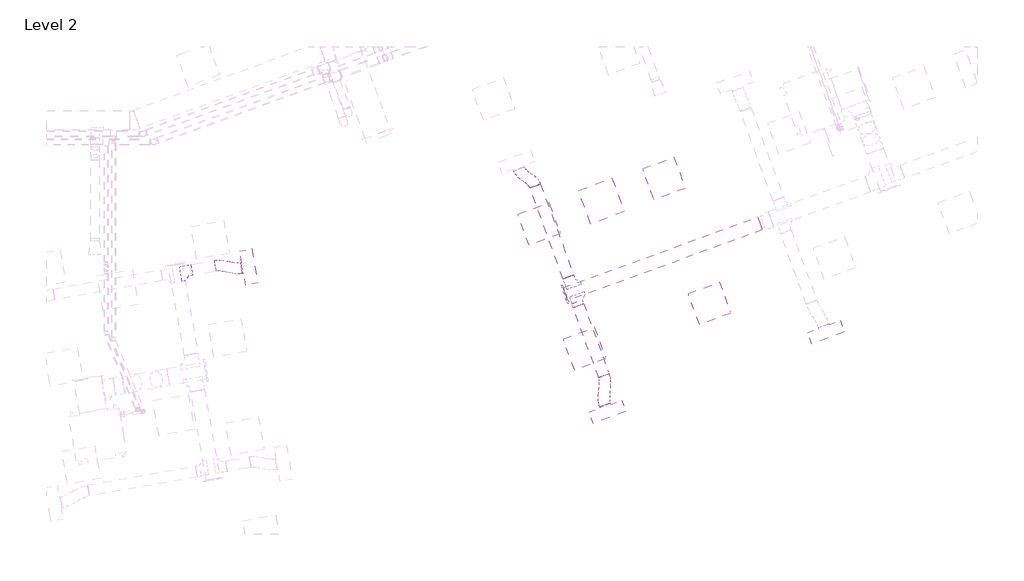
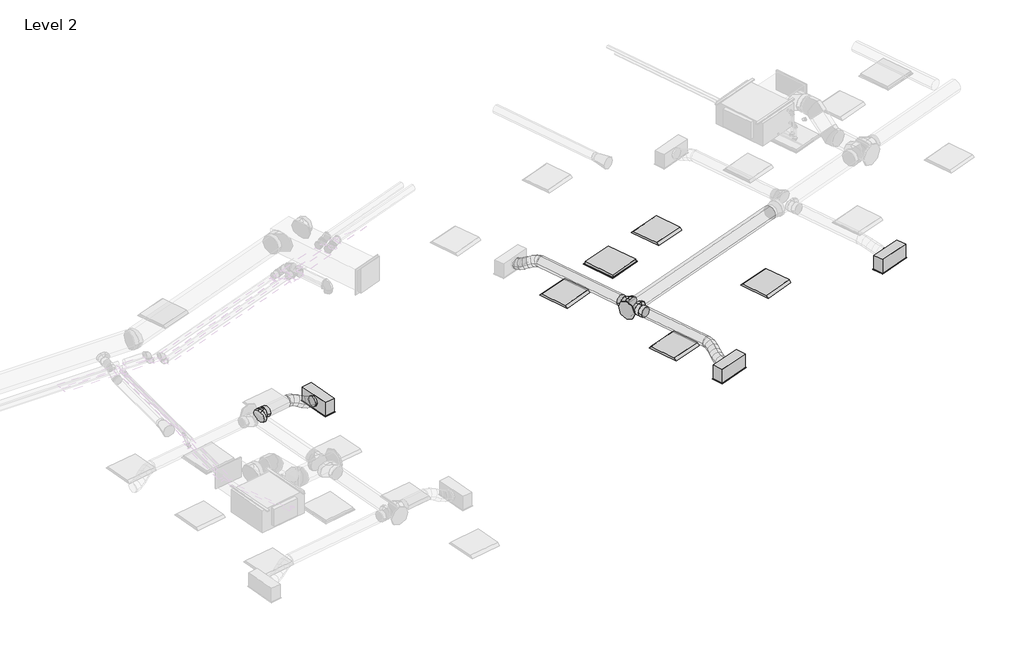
# One storey, part 16 of 26: 6 duct segments, 4 air terminals, 4 duct fittings, 4 light fixtures.
"""IFC4 building model written with IfcOpenShell, lengths in millimetres."""

from ifc_helpers import new_model, si_unit, point, frame, frame_2d, origin, place, context, project, spatial, circle_curve, ellipse_curve, trimmed, segment, composite_curve, outline, extrude, transform, mapped, element, save
from ifc_brep_helpers import plane_surface, cylinder_surface, advanced_brep
from components import return_grille_rectangular_hosted_standard_7b12617c, supply_diffuser_with_plenum_linear_slot_hosted_8e4f2f20, dw144_round_blank_end_standard_9aa061e7, dw144_round_shoe_branch_slip_joint1_standard_2_15a2edd8, dw144_round_shoe_branch_slip_joint1_standard_2_559552f4, light_fixture_1c7c1157, light_fixture_b730b5ca

model = new_model("IFC4")

# Units and contexts
model_context = context("Model", 3, world=origin())
ifc_project = project(units=[si_unit("LENGTHUNIT", "METRE", prefix="MILLI")], contexts=[model_context])

# Site, building, storey
site = spatial("IfcSite", under=ifc_project)
building = spatial("IfcBuilding", under=site)
storey = spatial("IfcBuildingStorey", under=building, Name="Level 2", Elevation=7800.0)

# Air terminals
placement = place(None, origin())
return_grille_rectangular_hosted_standard_shape = return_grille_rectangular_hosted_standard_7b12617c(model_context)
element("IfcAirTerminal", 1, ObjectType="Return Grille - Rectangular - Hosted : Standard", at=placement, inside=storey, context=model_context, shape_type="MappedRepresentation", body=[
    mapped(return_grille_rectangular_hosted_standard_shape, transform((41652.2340724, 7545.0866539, 10600.0), x_axis=(0.939692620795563, 0.34202014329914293, 0.0), y_axis=(0.34202014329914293, -0.939692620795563, 0.0), z_axis=(0.0, 0.0, -1.0))),
])
supply_diffuser_with_plenum_linear_slot_hosted_shape = supply_diffuser_with_plenum_linear_slot_hosted_8e4f2f20(model_context)
element("IfcAirTerminal", 2, ObjectType="Supply Diffuser with Plenum - Linear Slot - Hosted : 24\" x 8\"-200 In Inlet  4-Slot", at=placement, inside=storey, context=model_context, shape_type="MappedRepresentation", body=[
    mapped(supply_diffuser_with_plenum_linear_slot_hosted_shape, transform((35287.7668821, 6356.7751304, 10600.0), x_axis=(0.1736481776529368, -0.9848077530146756, 0.0), y_axis=(-0.9848077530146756, -0.1736481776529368, 0.0), z_axis=(0.0, 0.0, -1.0))),
])
element("IfcAirTerminal", 3, ObjectType="Supply Diffuser with Plenum - Linear Slot - Hosted : 24\" x 8\"-200 In Inlet  4-Slot", at=placement, inside=storey, context=model_context, shape_type="MappedRepresentation", body=[
    mapped(supply_diffuser_with_plenum_linear_slot_hosted_shape, transform((45710.0093544, 5175.8970284, 10600.0), x_axis=(-0.9396926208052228, -0.34202014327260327, 0.0), y_axis=(-0.34202014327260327, 0.9396926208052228, 0.0), z_axis=(0.0, 0.0, -1.0))),
])
element("IfcAirTerminal", 4, ObjectType="Supply Diffuser with Plenum - Linear Slot - Hosted : 24\" x 8\"-200 In Inlet  4-Slot", at=placement, inside=storey, context=model_context, shape_type="MappedRepresentation", body=[
    mapped(supply_diffuser_with_plenum_linear_slot_hosted_shape, transform((41763.8772786, 3738.1302766, 10600.0), x_axis=(-0.9396926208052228, -0.34202014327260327, 0.0), y_axis=(-0.34202014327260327, 0.9396926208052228, 0.0), z_axis=(0.0, 0.0, -1.0))),
])

# Duct fittings
dw144_round_blank_end_standard_shape = dw144_round_blank_end_standard_9aa061e7(model_context)
element("IfcDuctFitting", 5, ObjectType="DW144 Round Blank End : Standard", at=placement, inside=storey, context=model_context, shape_type="MappedRepresentation", body=[
    mapped(dw144_round_blank_end_standard_shape, transform((41009.1711145, 5863.2598768, 10872.2088531), x_axis=(-0.9396926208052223, -0.3420201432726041, 0.0), y_axis=(0.3420201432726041, -0.9396926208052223, 0.0), z_axis=(0.0, 0.0, 1.0))),
])
dw144_round_shoe_branch_slip_joint1_standard_2_shape = dw144_round_shoe_branch_slip_joint1_standard_2_15a2edd8(model_context)
element("IfcDuctFitting", 6, ObjectType="DW144 Round Shoe Branch - Slip Joint1 : Standard 2", at=placement, inside=storey, context=model_context, shape_type="MappedRepresentation", body=[
    mapped(dw144_round_shoe_branch_slip_joint1_standard_2_shape, transform((41187.9395023, 5795.3040272, 10872.2088531), x_axis=(0.3420201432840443, -0.9396926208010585, 0.0), y_axis=(-0.9396926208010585, -0.3420201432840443, 0.0), z_axis=(0.0, 0.0, -1.0))),
])
dw144_round_shoe_branch_slip_joint1_standard_2_2_shape = dw144_round_shoe_branch_slip_joint1_standard_2_559552f4(model_context)
element("IfcDuctFitting", 7, ObjectType="DW144 Round Shoe Branch - Slip Joint1 : Standard 2", at=placement, inside=storey, context=model_context, shape_type="MappedRepresentation", body=[
    mapped(dw144_round_shoe_branch_slip_joint1_standard_2_2_shape, transform((34112.5431238, 6274.4580965, 10900.0), x_axis=(0.984807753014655, 0.17364817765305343, 0.0), y_axis=(0.17364817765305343, -0.984807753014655, 0.0), z_axis=(0.0, 0.0, -1.0))),
])
element("IfcDuctFitting", 8, ObjectType="DW144 Round Shoe Branch - Slip Joint1 : Standard 2", at=placement, inside=storey, context=model_context, shape_type="MappedRepresentation", body=[
    mapped(dw144_round_shoe_branch_slip_joint1_standard_2_2_shape, transform((41110.0772481, 6033.0089274, 10872.2088531), x_axis=(-0.34202014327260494, 0.9396926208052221, 0.0), y_axis=(0.9396926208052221, 0.34202014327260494, 0.0), z_axis=(0.0, 0.0, -1.0))),
])

# Duct segments
element("IfcDuctSegment", 9, ObjectType="DW144 Segmented Bend / Shoe Branch", at=placement, inside=storey, context=model_context, shape_type="SweptSolid", body=[
    extrude(outline(composite_curve([segment(trimmed(circle_curve(frame_2d((0.0, -125.0)), 125.0), [point((-125.0, -125.0))], [point((0.0, 0.0))], False, "CARTESIAN"), True, "CONTINUOUS"), segment(trimmed(circle_curve(frame_2d((0.0, -125.0)), 125.0), [point((0.0, 0.0))], [point((125.0, -125.0))], False, "CARTESIAN"), True, "CONTINUOUS"), segment(trimmed(circle_curve(frame_2d((0.0, -125.0)), 125.0), [point((125.0, -125.0))], [point((0.0, -250.0))], False, "CARTESIAN"), True, "CONTINUOUS"), segment(trimmed(circle_curve(frame_2d((0.0, -125.0)), 125.0), [point((0.0, -250.0))], [point((-125.0, -125.0))], False, "CARTESIAN"), True, "CONTINUOUS")], self_intersect=False)), frame((41009.1711145, 5863.2598768, 10747.2088531), z_axis=(0.9396926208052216, 0.34202014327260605, 0.0), x_axis=(0.34202014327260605, -0.9396926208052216, 0.0)), (0.0, 0.0, 1.0), 3731.776784),
])
element("IfcDuctSegment", 10, ObjectType="DW144 Segmented Bend / Shoe Branch", at=placement, inside=storey, context=model_context, shape_type="SweptSolid", body=[
    extrude(outline(composite_curve([segment(trimmed(circle_curve(frame_2d((0.0, -100.0)), 100.0), [point((-100.0, -100.0))], [point((0.0, 0.0))], False, "CARTESIAN"), True, "CONTINUOUS"), segment(trimmed(circle_curve(frame_2d((0.0, -100.0)), 100.0), [point((0.0, 0.0))], [point((99.9999999, -100.0))], False, "CARTESIAN"), True, "CONTINUOUS"), segment(trimmed(circle_curve(frame_2d((0.0, -100.0)), 100.0), [point((99.9999999, -100.0))], [point((0.0, -200.0))], False, "CARTESIAN"), True, "CONTINUOUS"), segment(trimmed(circle_curve(frame_2d((0.0, -100.0)), 100.0), [point((0.0, -200.0))], [point((-100.0, -100.0))], False, "CARTESIAN"), True, "CONTINUOUS")], self_intersect=False)), frame((41698.4387819, 4392.7187837, 10772.2088531), z_axis=(-0.3420201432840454, 0.9396926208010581, 0.0), x_axis=(0.9396926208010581, 0.3420201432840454, 0.0)), (0.0, 0.0, 1.0), 1342.60004),
])
element("IfcDuctSegment", 11, ObjectType="DW144 Segmented Bend / Shoe Branch", at=placement, inside=storey, context=model_context, shape_type="SweptSolid", body=[
    extrude(outline(composite_curve([segment(trimmed(circle_curve(frame_2d((0.0, -100.0)), 100.0), [point((-100.0, -100.0))], [point((0.0, 0.0))], False, "CARTESIAN"), True, "CONTINUOUS"), segment(trimmed(circle_curve(frame_2d((0.0, -100.0)), 100.0), [point((0.0, 0.0))], [point((100.0, -100.0))], False, "CARTESIAN"), True, "CONTINUOUS"), segment(trimmed(circle_curve(frame_2d((0.0, -100.0)), 100.0), [point((100.0, -100.0))], [point((0.0, -200.0))], False, "CARTESIAN"), True, "CONTINUOUS"), segment(trimmed(circle_curve(frame_2d((0.0, -100.0)), 100.0), [point((0.0, -200.0))], [point((-100.0, -100.0))], False, "CARTESIAN"), True, "CONTINUOUS")], self_intersect=False)), frame((41058.7742266, 6173.9628205, 10772.2088531), z_axis=(-0.3420201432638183, 0.9396926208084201, 0.0), x_axis=(0.9396926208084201, 0.3420201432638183, 0.0)), (0.0, 0.0, 1.0), 1749.6371728),
])
element("IfcDuctSegment", 12, ObjectType="Flex - Round", at=placement, inside=storey, context=model_context, shape_type="AdvancedBrep", body=[
    advanced_brep(
    [(34671.2908416, 6474.5230558, 10900.0), (34688.6556593, 6376.0422805, 10800.0), (34706.0204771, 6277.5615052, 10900.0), (34688.6556593, 6376.0422805, 11000.0), (34694.4154706, 6478.6005518, 10900.0), (34694.7677253, 6377.1200026, 10800.0), (34713.5633612, 6278.8915192, 10900.0), (34713.2111064, 6380.3720683, 11000.0), (35143.460345, 6432.8726556, 10754.4), (35160.8251628, 6334.3918803, 10854.4), (35178.1899805, 6235.911105, 10754.4), (35160.8251628, 6334.3918803, 10654.4), (34790.5184981, 6480.0670588, 10881.9565242), (34757.1296246, 6378.0716288, 10788.2914675), (34778.7630113, 6279.8864487, 10887.7586758), (34812.1518848, 6381.8818786, 10981.4237325), (34893.9490833, 6464.0957037, 10842.0801418), (34839.220936, 6365.3954028, 10756.6421781), (34862.6490328, 6266.9330904, 10855.4174582), (34917.3771801, 6365.6333913, 10940.8554219), (34986.8317893, 6443.5010704, 10798.9825418), (34932.103642, 6344.8007694, 10713.5445781), (34955.5317388, 6246.338457, 10812.3198582), (35010.2598861, 6345.038758, 10897.7578219), (35070.7178107, 6430.547712, 10766.6413242), (35037.3289373, 6328.5522821, 10672.9762675), (35058.962324, 6230.367102, 10772.4434758), (35092.3511975, 6332.3625319, 10866.1085325), (35135.9174609, 6431.5426416, 10754.4), (35136.2697156, 6330.0620924, 10654.4), (35155.0653515, 6231.8336089, 10754.4), (35154.7130967, 6333.3141581, 10854.4)],
    [
        (0, 1, circle_curve(frame((34688.6556593, 6376.0422805, 10900.0), z_axis=(-0.9848077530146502, -0.1736481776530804, 0.0), x_axis=(-0.1736481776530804, 0.9848077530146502, 0.0)), 100.0)),
        (1, 2, circle_curve(frame((34688.6556593, 6376.0422805, 10900.0), z_axis=(-0.9848077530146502, -0.1736481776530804, 0.0), x_axis=(-0.1736481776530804, 0.9848077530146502, 0.0)), 100.0)),
        (2, 3, circle_curve(frame((34688.6556593, 6376.0422805, 10900.0), z_axis=(-0.9848077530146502, -0.1736481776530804, 0.0), x_axis=(-0.1736481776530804, 0.9848077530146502, 0.0)), 100.0)),
        (3, 0, circle_curve(frame((34688.6556593, 6376.0422805, 10900.0), z_axis=(-0.9848077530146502, -0.1736481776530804, 0.0), x_axis=(-0.1736481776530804, 0.9848077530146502, 0.0)), 100.0)),
        (0, 4),
        (4, 5, ellipse_curve(frame((34703.9894159, 6378.7460355, 10900.0), z_axis=(-0.9911261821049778, -0.09502812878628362, 0.09294377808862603), x_axis=(-0.008592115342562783, -0.6519599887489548, -0.7582046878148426)), 100.7485405, 100.0)),
        (5, 1),
        (5, 6, ellipse_curve(frame((34703.9894159, 6378.7460355, 10900.0), z_axis=(-0.9911261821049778, -0.09502812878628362, 0.09294377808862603), x_axis=(-0.008592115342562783, -0.6519599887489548, -0.7582046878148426)), 100.7485405, 100.0)),
        (6, 2),
        (6, 7, ellipse_curve(frame((34703.9894159, 6378.7460355, 10900.0), z_axis=(-0.9911261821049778, -0.09502812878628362, 0.09294377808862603), x_axis=(-0.008592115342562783, -0.6519599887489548, -0.7582046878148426)), 100.7485405, 100.0)),
        (7, 3),
        (7, 4, ellipse_curve(frame((34703.9894159, 6378.7460355, 10900.0), z_axis=(-0.9911261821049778, -0.09502812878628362, 0.09294377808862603), x_axis=(-0.008592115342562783, -0.6519599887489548, -0.7582046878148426)), 100.7485405, 100.0)),
        (8, 9, circle_curve(frame((35160.8251628, 6334.3918803, 10754.4), z_axis=(0.984807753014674, 0.17364817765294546, 0.0), x_axis=(-0.17364817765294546, 0.984807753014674, 0.0)), 100.0)),
        (9, 10, circle_curve(frame((35160.8251628, 6334.3918803, 10754.4), z_axis=(0.984807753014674, 0.17364817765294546, 0.0), x_axis=(-0.17364817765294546, 0.984807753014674, 0.0)), 100.0)),
        (10, 11, circle_curve(frame((35160.8251628, 6334.3918803, 10754.4), z_axis=(0.984807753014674, 0.17364817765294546, 0.0), x_axis=(-0.17364817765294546, 0.984807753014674, 0.0)), 100.0)),
        (11, 8, circle_curve(frame((35160.8251628, 6334.3918803, 10754.4), z_axis=(0.984807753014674, 0.17364817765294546, 0.0), x_axis=(-0.17364817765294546, 0.984807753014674, 0.0)), 100.0)),
        (4, 12),
        (12, 13, ellipse_curve(frame((34784.6407547, 6379.9767537, 10884.8576), z_axis=(-0.9600770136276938, 0.06427107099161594, 0.272252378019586), x_axis=(-0.24628654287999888, -0.6557067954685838, -0.7137167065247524)), 100.7300501, 100.0)),
        (13, 5),
        (13, 14, ellipse_curve(frame((34784.6407547, 6379.9767537, 10884.8576), z_axis=(-0.9600770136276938, 0.06427107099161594, 0.272252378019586), x_axis=(-0.24628654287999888, -0.6557067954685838, -0.7137167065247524)), 100.7300501, 100.0)),
        (14, 6),
        (14, 15, ellipse_curve(frame((34784.6407547, 6379.9767537, 10884.8576), z_axis=(-0.9600770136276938, 0.06427107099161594, 0.272252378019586), x_axis=(-0.24628654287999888, -0.6557067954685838, -0.7137167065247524)), 100.7300501, 100.0)),
        (15, 7),
        (15, 12, ellipse_curve(frame((34784.6407547, 6379.9767537, 10884.8576), z_axis=(-0.9600770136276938, 0.06427107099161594, 0.272252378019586), x_axis=(-0.24628654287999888, -0.6557067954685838, -0.7137167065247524)), 100.7300501, 100.0)),
        (12, 16),
        (16, 17, ellipse_curve(frame((34878.299058, 6365.514397, 10848.7488), z_axis=(-0.907243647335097, 0.17005048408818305, 0.3846970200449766), x_axis=(-0.399141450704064, -0.6365257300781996, -0.6599402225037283)), 100.0920172, 100.0)),
        (17, 13),
        (17, 18, ellipse_curve(frame((34878.299058, 6365.514397, 10848.7488), z_axis=(-0.907243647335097, 0.17005048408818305, 0.3846970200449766), x_axis=(-0.399141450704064, -0.6365257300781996, -0.6599402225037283)), 100.0920172, 100.0)),
        (18, 14),
        (18, 19, ellipse_curve(frame((34878.299058, 6365.514397, 10848.7488), z_axis=(-0.907243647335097, 0.17005048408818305, 0.3846970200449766), x_axis=(-0.399141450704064, -0.6365257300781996, -0.6599402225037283)), 100.0920172, 100.0)),
        (19, 15),
        (19, 16, ellipse_curve(frame((34878.299058, 6365.514397, 10848.7488), z_axis=(-0.907243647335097, 0.17005048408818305, 0.3846970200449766), x_axis=(-0.399141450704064, -0.6365257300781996, -0.6599402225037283)), 100.0920172, 100.0)),
        (16, 20),
        (20, 21, ellipse_curve(frame((34971.181764, 6344.9197637, 10805.6512), z_axis=(-0.9072436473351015, 0.17005048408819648, 0.3846970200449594), x_axis=(0.39914145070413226, 0.636525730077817, 0.6599402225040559)), 100.0920172, 100.0)),
        (21, 17),
        (21, 22, ellipse_curve(frame((34971.181764, 6344.9197637, 10805.6512), z_axis=(-0.9072436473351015, 0.17005048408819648, 0.3846970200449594), x_axis=(0.39914145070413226, 0.636525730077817, 0.6599402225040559)), 100.0920172, 100.0)),
        (22, 18),
        (22, 23, ellipse_curve(frame((34971.181764, 6344.9197637, 10805.6512), z_axis=(-0.9072436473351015, 0.17005048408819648, 0.3846970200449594), x_axis=(0.39914145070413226, 0.636525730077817, 0.6599402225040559)), 100.0920172, 100.0)),
        (23, 19),
        (23, 20, ellipse_curve(frame((34971.181764, 6344.9197637, 10805.6512), z_axis=(-0.9072436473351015, 0.17005048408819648, 0.3846970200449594), x_axis=(0.39914145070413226, 0.636525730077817, 0.6599402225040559)), 100.0920172, 100.0)),
        (20, 24),
        (24, 25, ellipse_curve(frame((35064.8400674, 6330.457407, 10769.5424), z_axis=(-0.9600770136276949, 0.06427107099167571, 0.2722523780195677), x_axis=(0.24628654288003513, 0.6557067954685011, 0.7137167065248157)), 100.7300501, 100.0)),
        (25, 21),
        (25, 26, ellipse_curve(frame((35064.8400674, 6330.457407, 10769.5424), z_axis=(-0.9600770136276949, 0.06427107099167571, 0.2722523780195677), x_axis=(0.24628654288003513, 0.6557067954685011, 0.7137167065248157)), 100.7300501, 100.0)),
        (26, 22),
        (26, 27, ellipse_curve(frame((35064.8400674, 6330.457407, 10769.5424), z_axis=(-0.9600770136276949, 0.06427107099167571, 0.2722523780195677), x_axis=(0.24628654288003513, 0.6557067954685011, 0.7137167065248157)), 100.7300501, 100.0)),
        (27, 23),
        (27, 24, ellipse_curve(frame((35064.8400674, 6330.457407, 10769.5424), z_axis=(-0.9600770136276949, 0.06427107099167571, 0.2722523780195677), x_axis=(0.24628654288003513, 0.6557067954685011, 0.7137167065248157)), 100.7300501, 100.0)),
        (24, 28),
        (28, 29, ellipse_curve(frame((35145.4914062, 6331.6881253, 10754.4), z_axis=(-0.9911261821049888, -0.09502812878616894, 0.09294377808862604), x_axis=(0.00859211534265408, 0.6519599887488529, 0.7582046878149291)), 100.7485405, 100.0)),
        (29, 25),
        (29, 30, ellipse_curve(frame((35145.4914062, 6331.6881253, 10754.4), z_axis=(-0.9911261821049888, -0.09502812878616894, 0.09294377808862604), x_axis=(0.00859211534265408, 0.6519599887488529, 0.7582046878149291)), 100.7485405, 100.0)),
        (30, 26),
        (30, 31, ellipse_curve(frame((35145.4914062, 6331.6881253, 10754.4), z_axis=(-0.9911261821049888, -0.09502812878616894, 0.09294377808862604), x_axis=(0.00859211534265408, 0.6519599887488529, 0.7582046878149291)), 100.7485405, 100.0)),
        (31, 27),
        (31, 28, ellipse_curve(frame((35145.4914062, 6331.6881253, 10754.4), z_axis=(-0.9911261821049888, -0.09502812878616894, 0.09294377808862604), x_axis=(0.00859211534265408, 0.6519599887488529, 0.7582046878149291)), 100.7485405, 100.0)),
        (28, 8),
        (11, 29),
        (10, 30),
        (9, 31),
    ],
    [
        plane_surface(frame((34688.6556593, 6376.0422805, 11000.0), z_axis=(-0.9848077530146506, -0.17364817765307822, 0.0), x_axis=(0.17364817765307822, -0.9848077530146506, 0.0))),
        cylinder_surface(frame((34688.6556593, 6376.0422805, 10900.0), z_axis=(-0.9848077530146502, -0.1736481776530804, 0.0), x_axis=(-0.1736481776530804, 0.9848077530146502, 0.0)), 100.0),
        plane_surface(frame((35160.8251628, 6334.3918803, 10854.4), z_axis=(0.9848077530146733, 0.17364817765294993, 0.0), x_axis=(0.17364817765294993, -0.9848077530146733, 0.0))),
        cylinder_surface(frame((34703.9894159, 6378.7460355, 10900.0), z_axis=(-0.9827168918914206, -0.01499600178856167, 0.184506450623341), x_axis=(-0.017996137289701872, 0.9997315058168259, -0.014596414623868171)), 100.0),
        cylinder_surface(frame((34784.6407547, 6379.9767537, 10884.8576), z_axis=(-0.9235206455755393, 0.14260652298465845, 0.35605195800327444), x_axis=(0.13092636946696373, 0.989762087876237, -0.0568268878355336)), 100.0),
        cylinder_surface(frame((34878.299058, 6365.514397, 10848.7488), z_axis=(-0.889298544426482, 0.19718178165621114, 0.4126347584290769), x_axis=(0.1811264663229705, 0.9803527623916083, -0.07811315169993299)), 100.0),
        cylinder_surface(frame((34971.181764, 6344.9197637, 10805.6512), z_axis=(-0.9235206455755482, 0.1426065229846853, 0.35605195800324), x_axis=(0.13092636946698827, 0.989762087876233, -0.056826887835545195)), 100.0),
        cylinder_surface(frame((35064.8400674, 6330.457407, 10769.5424), z_axis=(-0.982716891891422, -0.014996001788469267, 0.18450645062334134), x_axis=(-0.017996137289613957, 0.9997315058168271, -0.014596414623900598)), 100.0),
        cylinder_surface(frame((35145.4914062, 6331.6881253, 10754.4), z_axis=(-0.984807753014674, -0.17364817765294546, 0.0), x_axis=(-0.17364817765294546, 0.984807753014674, 0.0)), 100.0),
    ],
    [
        (0, [[1, 2, 3, 4]]),
        (1, [[-1, 5, 6, 7]]),
        (1, [[-2, -7, 8, 9]]),
        (1, [[-3, -9, 10, 11]]),
        (1, [[-4, -11, 12, -5]]),
        (2, [[13, 14, 15, 16]]),
        (3, [[-6, 17, 18, 19]]),
        (3, [[-8, -19, 20, 21]]),
        (3, [[-10, -21, 22, 23]]),
        (3, [[-12, -23, 24, -17]]),
        (4, [[-18, 25, 26, 27]]),
        (4, [[-20, -27, 28, 29]]),
        (4, [[-22, -29, 30, 31]]),
        (4, [[-24, -31, 32, -25]]),
        (5, [[-26, 33, 34, 35]]),
        (5, [[-28, -35, 36, 37]]),
        (5, [[-30, -37, 38, 39]]),
        (5, [[-32, -39, 40, -33]]),
        (6, [[-34, 41, 42, 43]]),
        (6, [[-36, -43, 44, 45]]),
        (6, [[-38, -45, 46, 47]]),
        (6, [[-40, -47, 48, -41]]),
        (7, [[-42, 49, 50, 51]]),
        (7, [[-44, -51, 52, 53]]),
        (7, [[-46, -53, 54, 55]]),
        (7, [[-48, -55, 56, -49]]),
        (8, [[-50, 57, -16, 58]]),
        (8, [[-52, -58, -15, 59]]),
        (8, [[-54, -59, -14, 60]]),
        (8, [[-56, -60, -13, -57]]),
    ],
),
])
element("IfcDuctSegment", 13, ObjectType="Flex - Round", at=placement, inside=storey, context=model_context, shape_type="AdvancedBrep", body=[
    advanced_brep(
    [(41792.4080439, 4426.9207981, 10872.2088531), (41698.4387819, 4392.7187837, 10772.2088531), (41604.4695198, 4358.5167694, 10872.2088531), (41698.4387819, 4392.7187837, 10972.2088531), (41799.7722987, 4406.6876745, 10872.2088531), (41701.0997671, 4385.407787, 10772.2088531), (41606.3821841, 4353.2617675, 10872.2088531), (41705.0547157, 4374.541655, 10972.2088531), (41813.7601442, 3893.4586698, 10754.4), (41719.7908821, 3859.2566554, 10854.4), (41625.82162, 3825.0546411, 10754.4), (41719.7908821, 3859.2566554, 10654.4), (41817.19267, 4315.8529701, 10861.5462997), (41713.0625368, 4323.0305487, 10764.8867548), (41617.4766137, 4295.412298, 10865.4182431), (41721.6067469, 4288.2347194, 10962.077788), (41817.7568961, 4213.3153713, 10836.4888712), (41713.5008417, 4243.3767879, 10745.4215202), (41617.8948837, 4219.3995054, 10846.842763), (41722.1509381, 4189.3380888, 10937.9101141), (41808.6137306, 4118.4629092, 10806.7206285), (41705.1032635, 4156.2591512, 10718.0807544), (41609.6159333, 4133.51253, 10819.8882246), (41713.1264005, 4095.7162879, 10908.5280987), (41800.3347803, 4032.5759338, 10779.7660901), (41696.0787259, 4062.6373504, 10688.6987391), (41600.4727679, 4038.6600679, 10790.1199819), (41704.7288223, 4008.5986513, 10881.1873329), (41800.7530503, 3956.5631411, 10761.19061), (41696.6229171, 3963.7407198, 10664.5310651), (41601.036994, 3936.1224691, 10765.0625534), (41705.1671272, 3928.9448905, 10861.7220983), (41811.8474799, 3898.7136717, 10754.4), (41713.1749483, 3877.4337842, 10654.4), (41618.4573653, 3845.2877647, 10754.4), (41717.1298969, 3866.5676522, 10854.4)],
    [
        (0, 1, circle_curve(frame((41698.4387819, 4392.7187837, 10872.2088531), z_axis=(-0.34202014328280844, 0.9396926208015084, 0.0), x_axis=(0.9396926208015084, 0.34202014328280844, 0.0)), 100.0)),
        (1, 2, circle_curve(frame((41698.4387819, 4392.7187837, 10872.2088531), z_axis=(-0.34202014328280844, 0.9396926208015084, 0.0), x_axis=(0.9396926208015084, 0.34202014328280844, 0.0)), 100.0)),
        (2, 3, circle_curve(frame((41698.4387819, 4392.7187837, 10872.2088531), z_axis=(-0.34202014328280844, 0.9396926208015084, 0.0), x_axis=(0.9396926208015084, 0.34202014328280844, 0.0)), 100.0)),
        (3, 0, circle_curve(frame((41698.4387819, 4392.7187837, 10872.2088531), z_axis=(-0.34202014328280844, 0.9396926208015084, 0.0), x_axis=(0.9396926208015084, 0.34202014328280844, 0.0)), 100.0)),
        (0, 4),
        (4, 5, ellipse_curve(frame((41703.0772414, 4379.974721, 10872.2088531), z_axis=(-0.265844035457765, 0.9622973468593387, 0.05753924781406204), x_axis=(-0.7904692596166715, -0.1834320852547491, -0.5843894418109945)), 100.4835539, 100.0)),
        (5, 1),
        (5, 6, ellipse_curve(frame((41703.0772414, 4379.974721, 10872.2088531), z_axis=(-0.265844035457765, 0.9622973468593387, 0.05753924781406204), x_axis=(-0.7904692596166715, -0.1834320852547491, -0.5843894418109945)), 100.4835539, 100.0)),
        (6, 2),
        (6, 7, ellipse_curve(frame((41703.0772414, 4379.974721, 10872.2088531), z_axis=(-0.265844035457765, 0.9622973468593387, 0.05753924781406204), x_axis=(-0.7904692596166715, -0.1834320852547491, -0.5843894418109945)), 100.4835539, 100.0)),
        (7, 3),
        (7, 4, ellipse_curve(frame((41703.0772414, 4379.974721, 10872.2088531), z_axis=(-0.265844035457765, 0.9622973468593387, 0.05753924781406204), x_axis=(-0.7904692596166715, -0.1834320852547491, -0.5843894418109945)), 100.4835539, 100.0)),
        (8, 9, circle_curve(frame((41719.7908821, 3859.2566554, 10754.4), z_axis=(0.34202014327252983, -0.9396926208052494, 0.0), x_axis=(0.9396926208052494, 0.34202014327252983, -2.3314059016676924e-12)), 100.0)),
        (9, 10, circle_curve(frame((41719.7908821, 3859.2566554, 10754.4), z_axis=(0.34202014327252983, -0.9396926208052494, 0.0), x_axis=(0.9396926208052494, 0.34202014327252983, -2.3314059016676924e-12)), 100.0)),
        (10, 11, circle_curve(frame((41719.7908821, 3859.2566554, 10754.4), z_axis=(0.34202014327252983, -0.9396926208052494, 0.0), x_axis=(0.9396926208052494, 0.34202014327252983, -2.3314059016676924e-12)), 100.0)),
        (11, 8, circle_curve(frame((41719.7908821, 3859.2566554, 10754.4), z_axis=(0.34202014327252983, -0.9396926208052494, 0.0), x_axis=(0.9396926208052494, 0.34202014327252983, -2.3314059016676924e-12)), 100.0)),
        (4, 12),
        (12, 13, ellipse_curve(frame((41717.3346418, 4305.6326341, 10863.4822714), z_axis=(-0.09681173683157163, 0.979433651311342, 0.17702319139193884), x_axis=(-0.8283370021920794, 0.019319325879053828, -0.5598969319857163)), 100.6073717, 100.0)),
        (13, 5),
        (13, 14, ellipse_curve(frame((41717.3346418, 4305.6326341, 10863.4822714), z_axis=(-0.09681173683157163, 0.979433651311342, 0.17702319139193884), x_axis=(-0.8283370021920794, 0.019319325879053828, -0.5598969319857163)), 100.6073717, 100.0)),
        (14, 6),
        (14, 15, ellipse_curve(frame((41717.3346418, 4305.6326341, 10863.4822714), z_axis=(-0.09681173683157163, 0.979433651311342, 0.17702319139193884), x_axis=(-0.8283370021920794, 0.019319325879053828, -0.5598969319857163)), 100.6073717, 100.0)),
        (15, 7),
        (15, 12, ellipse_curve(frame((41717.3346418, 4305.6326341, 10863.4822714), z_axis=(-0.09681173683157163, 0.979433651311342, 0.17702319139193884), x_axis=(-0.8283370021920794, 0.019319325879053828, -0.5598969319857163)), 100.6073717, 100.0)),
        (12, 16),
        (16, 17, ellipse_curve(frame((41717.8258899, 4216.3574383, 10841.6658171), z_axis=(0.04319261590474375, 0.9623844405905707, 0.26823606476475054), x_axis=(-0.8328559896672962, 0.18297459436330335, -0.5223707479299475)), 100.1697405, 100.0)),
        (17, 13),
        (17, 18, ellipse_curve(frame((41717.8258899, 4216.3574383, 10841.6658171), z_axis=(0.04319261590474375, 0.9623844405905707, 0.26823606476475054), x_axis=(-0.8328559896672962, 0.18297459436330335, -0.5223707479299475)), 100.1697405, 100.0)),
        (18, 14),
        (18, 19, ellipse_curve(frame((41717.8258899, 4216.3574383, 10841.6658171), z_axis=(0.04319261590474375, 0.9623844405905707, 0.26823606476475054), x_axis=(-0.8328559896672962, 0.18297459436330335, -0.5223707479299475)), 100.1697405, 100.0)),
        (19, 15),
        (19, 16, ellipse_curve(frame((41717.8258899, 4216.3574383, 10841.6658171), z_axis=(0.04319261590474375, 0.9623844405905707, 0.26823606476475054), x_axis=(-0.8328559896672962, 0.18297459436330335, -0.5223707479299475)), 100.1697405, 100.0)),
        (16, 20),
        (20, 21, circle_curve(frame((41709.114832, 4125.9877196, 10813.3044266), z_axis=(0.09158410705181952, 0.9501061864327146, 0.298178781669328), x_axis=(0.9949889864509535, -0.07524810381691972, -0.06583798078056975)), 100.0)),
        (21, 17),
        (21, 22, circle_curve(frame((41709.114832, 4125.9877196, 10813.3044266), z_axis=(0.09158410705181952, 0.9501061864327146, 0.298178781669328), x_axis=(0.9949889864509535, -0.07524810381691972, -0.06583798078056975)), 100.0)),
        (22, 18),
        (22, 23, circle_curve(frame((41709.114832, 4125.9877196, 10813.3044266), z_axis=(0.09158410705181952, 0.9501061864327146, 0.298178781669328), x_axis=(0.9949889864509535, -0.07524810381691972, -0.06583798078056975)), 100.0)),
        (23, 19),
        (23, 20, circle_curve(frame((41709.114832, 4125.9877196, 10813.3044266), z_axis=(0.09158410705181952, 0.9501061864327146, 0.298178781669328), x_axis=(0.9949889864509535, -0.07524810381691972, -0.06583798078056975)), 100.0)),
        (20, 24),
        (24, 25, ellipse_curve(frame((41700.4037741, 4035.6180009, 10784.943036), z_axis=(0.04319261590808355, 0.9623844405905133, 0.26823606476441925), x_axis=(0.8328559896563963, -0.18297459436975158, 0.5223707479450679)), 100.1697405, 100.0)),
        (25, 21),
        (25, 26, ellipse_curve(frame((41700.4037741, 4035.6180009, 10784.943036), z_axis=(0.04319261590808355, 0.9623844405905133, 0.26823606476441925), x_axis=(0.8328559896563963, -0.18297459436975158, 0.5223707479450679)), 100.1697405, 100.0)),
        (26, 22),
        (26, 27, ellipse_curve(frame((41700.4037741, 4035.6180009, 10784.943036), z_axis=(0.04319261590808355, 0.9623844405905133, 0.26823606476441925), x_axis=(0.8328559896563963, -0.18297459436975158, 0.5223707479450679)), 100.1697405, 100.0)),
        (27, 23),
        (27, 24, ellipse_curve(frame((41700.4037741, 4035.6180009, 10784.943036), z_axis=(0.04319261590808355, 0.9623844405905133, 0.26823606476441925), x_axis=(0.8328559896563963, -0.18297459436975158, 0.5223707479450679)), 100.1697405, 100.0)),
        (24, 28),
        (28, 29, ellipse_curve(frame((41700.8950222, 3946.3428051, 10763.1265817), z_axis=(-0.09681173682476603, 0.9794336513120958, 0.1770231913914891), x_axis=(0.8283370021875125, -0.019319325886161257, 0.5598969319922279)), 100.6073717, 100.0)),
        (29, 25),
        (29, 30, ellipse_curve(frame((41700.8950222, 3946.3428051, 10763.1265817), z_axis=(-0.09681173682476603, 0.9794336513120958, 0.1770231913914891), x_axis=(0.8283370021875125, -0.019319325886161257, 0.5598969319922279)), 100.6073717, 100.0)),
        (30, 26),
        (30, 31, ellipse_curve(frame((41700.8950222, 3946.3428051, 10763.1265817), z_axis=(-0.09681173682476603, 0.9794336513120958, 0.1770231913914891), x_axis=(0.8283370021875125, -0.019319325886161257, 0.5598969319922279)), 100.6073717, 100.0)),
        (31, 27),
        (31, 28, ellipse_curve(frame((41700.8950222, 3946.3428051, 10763.1265817), z_axis=(-0.09681173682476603, 0.9794336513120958, 0.1770231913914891), x_axis=(0.8283370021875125, -0.019319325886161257, 0.5598969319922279)), 100.6073717, 100.0)),
        (28, 32),
        (32, 33, ellipse_curve(frame((41715.1524226, 3872.0007182, 10754.4), z_axis=(-0.26584403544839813, 0.9622973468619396, 0.05753924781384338), x_axis=(0.7904692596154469, 0.18343208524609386, 0.5843894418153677)), 100.4835539, 100.0)),
        (33, 29),
        (33, 34, ellipse_curve(frame((41715.1524226, 3872.0007182, 10754.4), z_axis=(-0.26584403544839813, 0.9622973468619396, 0.05753924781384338), x_axis=(0.7904692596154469, 0.18343208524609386, 0.5843894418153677)), 100.4835539, 100.0)),
        (34, 30),
        (34, 35, ellipse_curve(frame((41715.1524226, 3872.0007182, 10754.4), z_axis=(-0.26584403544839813, 0.9622973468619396, 0.05753924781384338), x_axis=(0.7904692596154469, 0.18343208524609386, 0.5843894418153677)), 100.4835539, 100.0)),
        (35, 31),
        (35, 32, ellipse_curve(frame((41715.1524226, 3872.0007182, 10754.4), z_axis=(-0.26584403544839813, 0.9622973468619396, 0.05753924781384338), x_axis=(0.7904692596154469, 0.18343208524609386, 0.5843894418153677)), 100.4835539, 100.0)),
        (32, 8),
        (11, 33),
        (10, 34),
        (9, 35),
    ],
    [
        plane_surface(frame((41698.4387819, 4392.7187837, 10772.2088531), z_axis=(-0.34202014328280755, 0.9396926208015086, 0.0), x_axis=(0.9396926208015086, 0.34202014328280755, 0.0))),
        cylinder_surface(frame((41698.4387819, 4392.7187837, 10872.2088531), z_axis=(-0.34202014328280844, 0.9396926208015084, 0.0), x_axis=(0.9396926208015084, 0.34202014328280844, 0.0)), 100.0),
        plane_surface(frame((41719.7908821, 3859.2566554, 10654.4), z_axis=(0.34202014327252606, -0.9396926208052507, 0.0), x_axis=(0.9396926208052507, 0.34202014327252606, 0.0))),
        cylinder_surface(frame((41703.0772414, 4379.974721, 10872.2088531), z_axis=(-0.187109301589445, 0.9756404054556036, 0.1145247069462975), x_axis=(0.9818626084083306, 0.18937399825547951, -0.009127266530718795)), 100.0),
        cylinder_surface(frame((41717.3346418, 4305.6326341, 10863.4822714), z_axis=(-0.00534525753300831, 0.9714011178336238, 0.23738428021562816), x_axis=(0.9990578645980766, 0.015411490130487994, -0.04056931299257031)), 100.0),
        cylinder_surface(frame((41717.8258899, 4216.3574383, 10841.6658171), z_axis=(0.09158410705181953, 0.9501061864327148, 0.29817878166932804), x_axis=(0.9949889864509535, -0.07524810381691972, -0.06583798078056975)), 100.0),
        cylinder_surface(frame((41709.114832, 4125.9877196, 10813.3044266), z_axis=(0.09158410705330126, 0.9501061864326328, 0.2981787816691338), x_axis=(0.9949889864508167, -0.07524810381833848, -0.06583798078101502)), 100.0),
        cylinder_surface(frame((41700.4037741, 4035.6180009, 10784.943036), z_axis=(-0.0053452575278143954, 0.9714011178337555, 0.23738428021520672), x_axis=(0.9990578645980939, 0.01541149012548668, -0.04056931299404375)), 100.0),
        cylinder_surface(frame((41700.8950222, 3946.3428051, 10763.1265817), z_axis=(-0.18710930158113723, 0.9756404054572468, 0.11452470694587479), x_axis=(0.9818626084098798, 0.1893739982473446, -0.009127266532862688)), 100.0),
        cylinder_surface(frame((41715.1524226, 3872.0007182, 10754.4), z_axis=(-0.34202014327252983, 0.9396926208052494, 0.0), x_axis=(0.9396926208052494, 0.34202014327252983, -2.3314059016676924e-12)), 100.0),
    ],
    [
        (0, [[1, 2, 3, 4]]),
        (1, [[-1, 5, 6, 7]]),
        (1, [[-2, -7, 8, 9]]),
        (1, [[-3, -9, 10, 11]]),
        (1, [[-4, -11, 12, -5]]),
        (2, [[13, 14, 15, 16]]),
        (3, [[-6, 17, 18, 19]]),
        (3, [[-8, -19, 20, 21]]),
        (3, [[-10, -21, 22, 23]]),
        (3, [[-12, -23, 24, -17]]),
        (4, [[-18, 25, 26, 27]]),
        (4, [[-20, -27, 28, 29]]),
        (4, [[-22, -29, 30, 31]]),
        (4, [[-24, -31, 32, -25]]),
        (5, [[-26, 33, 34, 35]]),
        (5, [[-28, -35, 36, 37]]),
        (5, [[-30, -37, 38, 39]]),
        (5, [[-32, -39, 40, -33]]),
        (6, [[-34, 41, 42, 43]]),
        (6, [[-36, -43, 44, 45]]),
        (6, [[-38, -45, 46, 47]]),
        (6, [[-40, -47, 48, -41]]),
        (7, [[-42, 49, 50, 51]]),
        (7, [[-44, -51, 52, 53]]),
        (7, [[-46, -53, 54, 55]]),
        (7, [[-48, -55, 56, -49]]),
        (8, [[-50, 57, 58, 59]]),
        (8, [[-52, -59, 60, 61]]),
        (8, [[-54, -61, 62, 63]]),
        (8, [[-56, -63, 64, -57]]),
        (9, [[-58, 65, -16, 66]]),
        (9, [[-60, -66, -15, 67]]),
        (9, [[-62, -67, -14, 68]]),
        (9, [[-64, -68, -13, -65]]),
    ],
),
])
element("IfcDuctSegment", 14, ObjectType="Flex - Round", at=placement, inside=storey, context=model_context, shape_type="AdvancedBrep", body=[
    advanced_brep(
    [(40366.393808, 7783.8819465, 10872.2088531), (40460.3630701, 7818.0839608, 10772.2088531), (40554.3323322, 7852.2859752, 10872.2088531), (40460.3630701, 7818.0839608, 10972.2088531), (40364.3238826, 7789.5690199, 10872.2088531), (40456.9972505, 7827.3314741, 10772.2088531), (40544.0929768, 7880.4183728, 10872.2088531), (40451.4196089, 7842.6559186, 10972.2088531), (40069.6931043, 8094.553209, 10754.4), (40163.6623664, 8128.7552233, 10854.4), (40257.6316285, 8162.9572377, 10754.4), (40163.6623664, 8128.7552233, 10654.4), (40346.6769915, 7816.0193494, 10867.0636093), (40435.4534949, 7859.6226823, 10765.9274138), (40501.8799111, 7943.6901123, 10859.9009335), (40413.1034077, 7900.0867794, 10961.037129), (40305.9352279, 7854.9296301, 10850.0109239), (40391.1009142, 7901.9814614, 10747.3634013), (40438.3752407, 8004.3400286, 10833.3207104), (40353.2095545, 7957.2881972, 10935.9682329), (40250.299746, 7895.4331962, 10823.7749142), (40334.0355555, 7943.5260019, 10720.453105), (40373.7256905, 8051.405988, 10802.8339389), (40289.989881, 8003.3131823, 10906.1557481), (40185.6501958, 7942.4991556, 10793.2881427), (40270.815882, 7989.5509869, 10690.6406202), (40318.0902085, 8091.9095541, 10776.5979293), (40232.9245223, 8044.8577227, 10879.2454518), (40122.1455253, 8003.1490719, 10766.7079196), (40210.9220288, 8046.7524048, 10665.5717241), (40277.348445, 8130.8198348, 10759.5452438), (40188.5719416, 8087.2165019, 10860.6814393), (40079.9324597, 8066.4208114, 10754.4), (40172.6058276, 8104.1832656, 10654.4), (40259.7015539, 8157.2701643, 10754.4), (40167.028186, 8119.5077101, 10854.4)],
    [
        (0, 1, circle_curve(frame((40460.3630701, 7818.0839608, 10872.2088531), z_axis=(0.342020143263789, -0.9396926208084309, 0.0), x_axis=(-0.9396926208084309, -0.342020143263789, 0.0)), 100.0)),
        (1, 2, circle_curve(frame((40460.3630701, 7818.0839608, 10872.2088531), z_axis=(0.342020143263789, -0.9396926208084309, 0.0), x_axis=(-0.9396926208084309, -0.342020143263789, 0.0)), 100.0)),
        (2, 3, circle_curve(frame((40460.3630701, 7818.0839608, 10872.2088531), z_axis=(0.342020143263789, -0.9396926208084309, 0.0), x_axis=(-0.9396926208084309, -0.342020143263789, 0.0)), 100.0)),
        (3, 0, circle_curve(frame((40460.3630701, 7818.0839608, 10872.2088531), z_axis=(0.342020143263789, -0.9396926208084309, 0.0), x_axis=(-0.9396926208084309, -0.342020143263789, 0.0)), 100.0)),
        (0, 4),
        (4, 5, ellipse_curve(frame((40454.2084297, 7834.9936964, 10872.2088531), z_axis=(0.4495703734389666, -0.8895920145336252, 0.08070022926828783), x_axis=(-0.7191248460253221, -0.4140463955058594, -0.5580546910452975)), 101.0401911, 100.0)),
        (5, 1),
        (5, 6, ellipse_curve(frame((40454.2084297, 7834.9936964, 10872.2088531), z_axis=(0.4495703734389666, -0.8895920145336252, 0.08070022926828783), x_axis=(-0.7191248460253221, -0.4140463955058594, -0.5580546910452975)), 101.0401911, 100.0)),
        (6, 2),
        (6, 7, ellipse_curve(frame((40454.2084297, 7834.9936964, 10872.2088531), z_axis=(0.4495703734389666, -0.8895920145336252, 0.08070022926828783), x_axis=(-0.7191248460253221, -0.4140463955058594, -0.5580546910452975)), 101.0401911, 100.0)),
        (7, 3),
        (7, 4, ellipse_curve(frame((40454.2084297, 7834.9936964, 10872.2088531), z_axis=(0.4495703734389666, -0.8895920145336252, 0.08070022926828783), x_axis=(-0.7191248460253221, -0.4140463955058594, -0.5580546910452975)), 101.0401911, 100.0)),
        (8, 9, circle_curve(frame((40163.6623664, 8128.7552233, 10754.4), z_axis=(-0.34202014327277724, 0.9396926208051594, 0.0), x_axis=(-0.9396926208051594, -0.34202014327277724, 2.4914861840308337e-12)), 100.0)),
        (9, 10, circle_curve(frame((40163.6623664, 8128.7552233, 10754.4), z_axis=(-0.34202014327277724, 0.9396926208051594, 0.0), x_axis=(-0.9396926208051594, -0.34202014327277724, 2.4914861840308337e-12)), 100.0)),
        (10, 11, circle_curve(frame((40163.6623664, 8128.7552233, 10754.4), z_axis=(-0.34202014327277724, 0.9396926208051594, 0.0), x_axis=(-0.9396926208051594, -0.34202014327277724, 2.4914861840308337e-12)), 100.0)),
        (11, 8, circle_curve(frame((40163.6623664, 8128.7552233, 10754.4), z_axis=(-0.34202014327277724, 0.9396926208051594, 0.0), x_axis=(-0.9396926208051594, -0.34202014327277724, 2.4914861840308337e-12)), 100.0)),
        (4, 12),
        (12, 13, ellipse_curve(frame((40424.2784513, 7879.8547308, 10863.4822714), z_axis=(0.6249819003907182, -0.7470504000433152, 0.2265244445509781), x_axis=(-0.5732815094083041, -0.6361792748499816, -0.5163566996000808)), 100.8014688, 100.0)),
        (13, 5),
        (13, 14, ellipse_curve(frame((40424.2784513, 7879.8547308, 10863.4822714), z_axis=(0.6249819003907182, -0.7470504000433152, 0.2265244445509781), x_axis=(-0.5732815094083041, -0.6361792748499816, -0.5163566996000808)), 100.8014688, 100.0)),
        (14, 6),
        (14, 15, ellipse_curve(frame((40424.2784513, 7879.8547308, 10863.4822714), z_axis=(0.6249819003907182, -0.7470504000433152, 0.2265244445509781), x_axis=(-0.5732815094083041, -0.6361792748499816, -0.5163566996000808)), 100.8014688, 100.0)),
        (15, 7),
        (15, 12, ellipse_curve(frame((40424.2784513, 7879.8547308, 10863.4822714), z_axis=(0.6249819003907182, -0.7470504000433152, 0.2265244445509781), x_axis=(-0.5732815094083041, -0.6361792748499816, -0.5163566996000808)), 100.8014688, 100.0)),
        (12, 16),
        (16, 17, ellipse_curve(frame((40372.1552343, 7929.6348293, 10841.6658171), z_axis=(0.7256739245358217, -0.6070781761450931, 0.3238108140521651), x_axis=(-0.4389207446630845, -0.7708855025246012, -0.4616103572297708)), 100.2606105, 100.0)),
        (17, 13),
        (17, 18, ellipse_curve(frame((40372.1552343, 7929.6348293, 10841.6658171), z_axis=(0.7256739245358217, -0.6070781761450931, 0.3238108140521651), x_axis=(-0.4389207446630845, -0.7708855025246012, -0.4616103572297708)), 100.2606105, 100.0)),
        (18, 14),
        (18, 19, ellipse_curve(frame((40372.1552343, 7929.6348293, 10841.6658171), z_axis=(0.7256739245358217, -0.6070781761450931, 0.3238108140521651), x_axis=(-0.4389207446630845, -0.7708855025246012, -0.4616103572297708)), 100.2606105, 100.0)),
        (19, 15),
        (19, 16, ellipse_curve(frame((40372.1552343, 7929.6348293, 10841.6658171), z_axis=(0.7256739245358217, -0.6070781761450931, 0.3238108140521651), x_axis=(-0.4389207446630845, -0.7708855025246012, -0.4616103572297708)), 100.2606105, 100.0)),
        (16, 20),
        (20, 21, circle_curve(frame((40312.0127182, 7973.4195921, 10813.3044266), z_axis=(0.7554140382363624, -0.5499541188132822, 0.35623040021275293), x_axis=(-0.6171297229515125, -0.7798639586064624, 0.10470487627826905)), 100.0)),
        (21, 17),
        (21, 22, circle_curve(frame((40312.0127182, 7973.4195921, 10813.3044266), z_axis=(0.7554140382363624, -0.5499541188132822, 0.35623040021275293), x_axis=(-0.6171297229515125, -0.7798639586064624, 0.10470487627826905)), 100.0)),
        (22, 18),
        (22, 23, circle_curve(frame((40312.0127182, 7973.4195921, 10813.3044266), z_axis=(0.7554140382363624, -0.5499541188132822, 0.35623040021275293), x_axis=(-0.6171297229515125, -0.7798639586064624, 0.10470487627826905)), 100.0)),
        (23, 19),
        (23, 20, circle_curve(frame((40312.0127182, 7973.4195921, 10813.3044266), z_axis=(0.7554140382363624, -0.5499541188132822, 0.35623040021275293), x_axis=(-0.6171297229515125, -0.7798639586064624, 0.10470487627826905)), 100.0)),
        (20, 24),
        (24, 25, ellipse_curve(frame((40251.8702022, 8017.2043548, 10784.943036), z_axis=(0.7256739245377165, -0.6070781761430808, 0.323810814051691), x_axis=(0.43892074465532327, 0.7708855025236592, 0.46161035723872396)), 100.2606105, 100.0)),
        (25, 21),
        (25, 26, ellipse_curve(frame((40251.8702022, 8017.2043548, 10784.943036), z_axis=(0.7256739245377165, -0.6070781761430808, 0.323810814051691), x_axis=(0.43892074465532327, 0.7708855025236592, 0.46161035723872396)), 100.2606105, 100.0)),
        (26, 22),
        (26, 27, ellipse_curve(frame((40251.8702022, 8017.2043548, 10784.943036), z_axis=(0.7256739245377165, -0.6070781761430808, 0.323810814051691), x_axis=(0.43892074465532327, 0.7708855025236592, 0.46161035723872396)), 100.2606105, 100.0)),
        (27, 23),
        (27, 24, ellipse_curve(frame((40251.8702022, 8017.2043548, 10784.943036), z_axis=(0.7256739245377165, -0.6070781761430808, 0.323810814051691), x_axis=(0.43892074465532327, 0.7708855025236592, 0.46161035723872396)), 100.2606105, 100.0)),
        (24, 28),
        (28, 29, ellipse_curve(frame((40199.7469852, 8066.9844533, 10763.1265817), z_axis=(0.6249819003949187, -0.7470504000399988, 0.22652444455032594), x_axis=(0.573281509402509, 0.6361792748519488, 0.5163566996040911)), 100.8014688, 100.0)),
        (29, 25),
        (29, 30, ellipse_curve(frame((40199.7469852, 8066.9844533, 10763.1265817), z_axis=(0.6249819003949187, -0.7470504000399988, 0.22652444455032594), x_axis=(0.573281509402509, 0.6361792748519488, 0.5163566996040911)), 100.8014688, 100.0)),
        (30, 26),
        (30, 31, ellipse_curve(frame((40199.7469852, 8066.9844533, 10763.1265817), z_axis=(0.6249819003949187, -0.7470504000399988, 0.22652444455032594), x_axis=(0.573281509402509, 0.6361792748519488, 0.5163566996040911)), 100.8014688, 100.0)),
        (31, 27),
        (31, 28, ellipse_curve(frame((40199.7469852, 8066.9844533, 10763.1265817), z_axis=(0.6249819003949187, -0.7470504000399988, 0.22652444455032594), x_axis=(0.573281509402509, 0.6361792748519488, 0.5163566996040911)), 100.8014688, 100.0)),
        (28, 32),
        (32, 33, ellipse_curve(frame((40169.8170068, 8111.8454878, 10754.4), z_axis=(0.44957037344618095, -0.8895920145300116, 0.08070022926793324), x_axis=(0.7191248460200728, 0.41404639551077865, 0.5580546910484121)), 101.0401911, 100.0)),
        (33, 29),
        (33, 34, ellipse_curve(frame((40169.8170068, 8111.8454878, 10754.4), z_axis=(0.44957037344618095, -0.8895920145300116, 0.08070022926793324), x_axis=(0.7191248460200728, 0.41404639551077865, 0.5580546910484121)), 101.0401911, 100.0)),
        (34, 30),
        (34, 35, ellipse_curve(frame((40169.8170068, 8111.8454878, 10754.4), z_axis=(0.44957037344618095, -0.8895920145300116, 0.08070022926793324), x_axis=(0.7191248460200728, 0.41404639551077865, 0.5580546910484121)), 101.0401911, 100.0)),
        (35, 31),
        (35, 32, ellipse_curve(frame((40169.8170068, 8111.8454878, 10754.4), z_axis=(0.44957037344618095, -0.8895920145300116, 0.08070022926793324), x_axis=(0.7191248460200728, 0.41404639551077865, 0.5580546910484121)), 101.0401911, 100.0)),
        (32, 8),
        (11, 33),
        (10, 34),
        (9, 35),
    ],
    [
        plane_surface(frame((40460.3630701, 7818.0839608, 10972.2088531), z_axis=(0.3420201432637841, -0.9396926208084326, 0.0), x_axis=(0.9396926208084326, 0.3420201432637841, 0.0))),
        cylinder_surface(frame((40460.3630701, 7818.0839608, 10872.2088531), z_axis=(0.342020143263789, -0.9396926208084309, 0.0), x_axis=(-0.9396926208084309, -0.342020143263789, 0.0)), 100.0),
        plane_surface(frame((40163.6623664, 8128.7552233, 10854.4), z_axis=(-0.34202014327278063, 0.939692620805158, 0.0), x_axis=(0.939692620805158, 0.34202014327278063, 0.0))),
        cylinder_surface(frame((40454.2084297, 7834.9936964, 10872.2088531), z_axis=(0.5478641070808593, -0.8211750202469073, 0.159738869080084), x_axis=(-0.8334145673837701, -0.5523189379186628, 0.019077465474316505)), 100.0),
        cylinder_surface(frame((40424.2784513, 7879.8547308, 10863.4822714), z_axis=(0.6921612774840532, -0.6610462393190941, 0.2897078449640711), x_axis=(-0.703496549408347, -0.7076119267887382, 0.06616620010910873)), 100.0),
        cylinder_surface(frame((40372.1552343, 7929.6348293, 10841.6658171), z_axis=(0.7554140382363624, -0.5499541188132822, 0.35623040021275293), x_axis=(-0.6171297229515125, -0.7798639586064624, 0.10470487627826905)), 100.0),
        cylinder_surface(frame((40312.0127182, 7973.4195921, 10813.3044266), z_axis=(0.7554140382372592, -0.5499541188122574, 0.3562304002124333), x_axis=(-0.6171297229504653, -0.7798639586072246, 0.10470487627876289)), 100.0),
        cylinder_surface(frame((40251.8702022, 8017.2043548, 10784.943036), z_axis=(0.6921612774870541, -0.6610462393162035, 0.2897078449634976), x_axis=(-0.7034965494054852, -0.7076119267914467, 0.06616620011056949)), 100.0),
        cylinder_surface(frame((40199.7469852, 8066.9844533, 10763.1265817), z_axis=(0.5478641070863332, -0.8211750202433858, 0.1597388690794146), x_axis=(-0.8334145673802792, -0.5523189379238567, 0.019077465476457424)), 100.0),
        cylinder_surface(frame((40169.8170068, 8111.8454878, 10754.4), z_axis=(0.34202014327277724, -0.9396926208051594, 0.0), x_axis=(-0.9396926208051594, -0.34202014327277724, 2.4914861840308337e-12)), 100.0),
    ],
    [
        (0, [[1, 2, 3, 4]]),
        (1, [[-1, 5, 6, 7]]),
        (1, [[-2, -7, 8, 9]]),
        (1, [[-3, -9, 10, 11]]),
        (1, [[-4, -11, 12, -5]]),
        (2, [[13, 14, 15, 16]]),
        (3, [[-6, 17, 18, 19]]),
        (3, [[-8, -19, 20, 21]]),
        (3, [[-10, -21, 22, 23]]),
        (3, [[-12, -23, 24, -17]]),
        (4, [[-18, 25, 26, 27]]),
        (4, [[-20, -27, 28, 29]]),
        (4, [[-22, -29, 30, 31]]),
        (4, [[-24, -31, 32, -25]]),
        (5, [[-26, 33, 34, 35]]),
        (5, [[-28, -35, 36, 37]]),
        (5, [[-30, -37, 38, 39]]),
        (5, [[-32, -39, 40, -33]]),
        (6, [[-34, 41, 42, 43]]),
        (6, [[-36, -43, 44, 45]]),
        (6, [[-38, -45, 46, 47]]),
        (6, [[-40, -47, 48, -41]]),
        (7, [[-42, 49, 50, 51]]),
        (7, [[-44, -51, 52, 53]]),
        (7, [[-46, -53, 54, 55]]),
        (7, [[-48, -55, 56, -49]]),
        (8, [[-50, 57, 58, 59]]),
        (8, [[-52, -59, 60, 61]]),
        (8, [[-54, -61, 62, 63]]),
        (8, [[-56, -63, 64, -57]]),
        (9, [[-58, 65, -16, 66]]),
        (9, [[-60, -66, -15, 67]]),
        (9, [[-62, -67, -14, 68]]),
        (9, [[-64, -68, -13, -65]]),
    ],
),
])

# Light fixtures
light_fixture_shape = light_fixture_1c7c1157(model_context)
element("IfcLightFixture", 15, ObjectType="ELEKTRA Plain Recessed Lighting Fixture : 24\" x 24\" - 230", at=placement, inside=storey, context=model_context, shape_type="MappedRepresentation", body=[
    mapped(light_fixture_shape, transform((41169.7261217, 4491.7990704, 10600.0), x_axis=(0.9396926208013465, 0.3420201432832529, 0.0), y_axis=(0.3420201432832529, -0.9396926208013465, 0.0), z_axis=(0.0, 0.0, -1.0))),
])
element("IfcLightFixture", 16, ObjectType="ELEKTRA Plain Recessed Lighting Fixture : 24\" x 24\" - 230", at=placement, inside=storey, context=model_context, shape_type="MappedRepresentation", body=[
    mapped(light_fixture_shape, transform((40348.8777778, 6747.0613604, 10600.0), x_axis=(0.9396926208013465, 0.34202014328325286, 0.0), y_axis=(0.34202014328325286, -0.9396926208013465, 0.0), z_axis=(0.0, 0.0, -1.0))),
])
element("IfcLightFixture", 17, ObjectType="ELEKTRA Plain Recessed Lighting Fixture : 24\" x 24\" - 230", at=placement, inside=storey, context=model_context, shape_type="MappedRepresentation", body=[
    mapped(light_fixture_shape, transform((43424.9884116, 5312.6474143, 10600.0), x_axis=(0.9396926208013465, 0.3420201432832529, 0.0), y_axis=(0.3420201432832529, -0.9396926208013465, 0.0), z_axis=(0.0, 0.0, -1.0))),
])
light_fixture_2_shape = light_fixture_b730b5ca(model_context)
element("IfcLightFixture", 18, ObjectType="ELEKTRA EM Recessed Lighting Fixture : 24\" x 24\" - 230", at=placement, inside=storey, context=model_context, shape_type="MappedRepresentation", body=[
    mapped(light_fixture_2_shape, transform((42604.1400678, 7567.9097042, 10600.0), x_axis=(0.9396926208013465, 0.34202014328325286, 0.0), y_axis=(0.34202014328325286, -0.9396926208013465, 0.0), z_axis=(0.0, 0.0, -1.0))),
])

save(model, "model.ifc")
